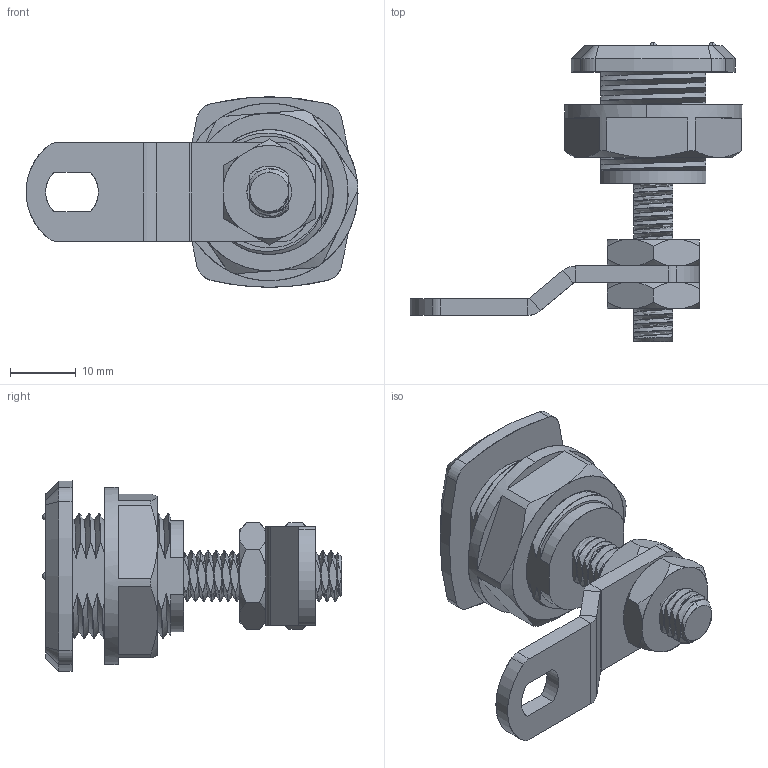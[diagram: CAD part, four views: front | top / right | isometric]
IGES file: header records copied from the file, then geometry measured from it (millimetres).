
Start section: SolidWorks IGES file using analytic representation for surfaces
Global section: file name: D:\尚坤工业图纸\SK1--门锁系列\SK1-010\SK1-010.IGS; native system: SolidWorks 2015; preprocessor: SolidWorks 2015; author: admin; date: 181101.102026; units: millimetre
Bounding box: 50.5 x 45.5 x 29 mm (x, y, z)
Surface area: 8697.6 mm2 (no closed solid volume)
Topology: 0 solids, 0 shells, 341 faces, 5207 edges, 5201 vertices
Faces by surface type: revolution 183, bspline 158
